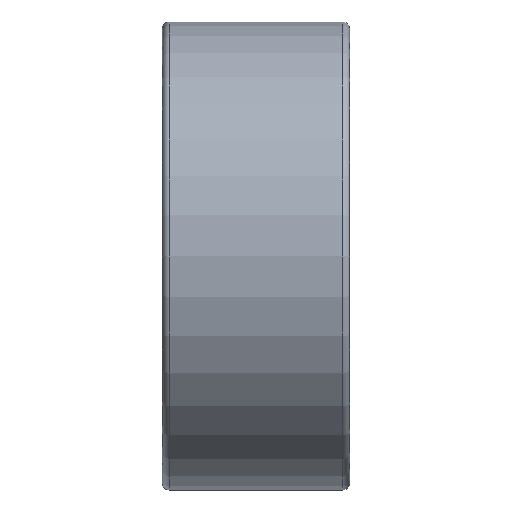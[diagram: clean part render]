
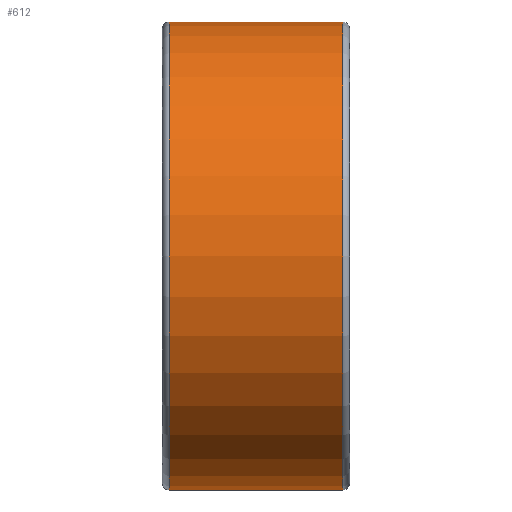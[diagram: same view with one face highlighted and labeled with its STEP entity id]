
A CAD part, front view. The second image highlights one B-rep face of the part: STEP entity #612.
In plain terms, the highlighted cylindrical face has radius 5 mm (diameter 10 mm), a full revolution.
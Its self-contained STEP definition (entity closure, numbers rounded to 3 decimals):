
#153 = TOROIDAL_SURFACE('',#154,4.85,0.15);
#154 = AXIS2_PLACEMENT_3D('',#155,#156,#157);
#155 = CARTESIAN_POINT('',(0.15,0.,0.));
#156 = DIRECTION('',(1.,0.,-0.));
#157 = DIRECTION('',(-0.,0.,-1.));
#539 = TOROIDAL_SURFACE('',#540,4.85,0.15);
#540 = AXIS2_PLACEMENT_3D('',#541,#542,#543);
#541 = CARTESIAN_POINT('',(3.85,0.,0.));
#542 = DIRECTION('',(1.,0.,-0.));
#543 = DIRECTION('',(-0.,0.,-1.));
#557 = EDGE_CURVE('',#558,#558,#560,.T.);
#558 = VERTEX_POINT('',#559);
#559 = CARTESIAN_POINT('',(3.85,0.,-5.));
#560 = SURFACE_CURVE('',#561,(#566,#573),.PCURVE_S1.);
#561 = CIRCLE('',#562,5.);
#562 = AXIS2_PLACEMENT_3D('',#563,#564,#565);
#563 = CARTESIAN_POINT('',(3.85,0.,0.));
#564 = DIRECTION('',(1.,0.,-0.));
#565 = DIRECTION('',(-0.,0.,-1.));
#566 = PCURVE('',#539,#567);
#567 = DEFINITIONAL_REPRESENTATION('',(#568),#572);
#568 = LINE('',#569,#570);
#569 = CARTESIAN_POINT('',(0.,6.283));
#570 = VECTOR('',#571,1.);
#571 = DIRECTION('',(1.,0.));
#572 = ( GEOMETRIC_REPRESENTATION_CONTEXT(2) 
PARAMETRIC_REPRESENTATION_CONTEXT() REPRESENTATION_CONTEXT('2D SPACE',''
  ) );
#573 = PCURVE('',#574,#579);
#574 = CYLINDRICAL_SURFACE('',#575,5.);
#575 = AXIS2_PLACEMENT_3D('',#576,#577,#578);
#576 = CARTESIAN_POINT('',(4.,0.,0.));
#577 = DIRECTION('',(-1.,-0.,0.));
#578 = DIRECTION('',(-0.,0.,-1.));
#579 = DEFINITIONAL_REPRESENTATION('',(#580),#584);
#580 = LINE('',#581,#582);
#581 = CARTESIAN_POINT('',(6.283,0.15));
#582 = VECTOR('',#583,1.);
#583 = DIRECTION('',(-1.,0.));
#584 = ( GEOMETRIC_REPRESENTATION_CONTEXT(2) 
PARAMETRIC_REPRESENTATION_CONTEXT() REPRESENTATION_CONTEXT('2D SPACE',''
  ) );
#612 = ADVANCED_FACE('',(#613),#574,.T.);
#613 = FACE_BOUND('',#614,.T.);
#614 = EDGE_LOOP('',(#615,#639,#659,#660));
#615 = ORIENTED_EDGE('',*,*,#616,.T.);
#616 = EDGE_CURVE('',#617,#617,#619,.T.);
#617 = VERTEX_POINT('',#618);
#618 = CARTESIAN_POINT('',(0.15,0.,-5.));
#619 = SURFACE_CURVE('',#620,(#625,#632),.PCURVE_S1.);
#620 = CIRCLE('',#621,5.);
#621 = AXIS2_PLACEMENT_3D('',#622,#623,#624);
#622 = CARTESIAN_POINT('',(0.15,0.,0.));
#623 = DIRECTION('',(1.,0.,-0.));
#624 = DIRECTION('',(-0.,0.,-1.));
#625 = PCURVE('',#574,#626);
#626 = DEFINITIONAL_REPRESENTATION('',(#627),#631);
#627 = LINE('',#628,#629);
#628 = CARTESIAN_POINT('',(6.283,3.85));
#629 = VECTOR('',#630,1.);
#630 = DIRECTION('',(-1.,0.));
#631 = ( GEOMETRIC_REPRESENTATION_CONTEXT(2) 
PARAMETRIC_REPRESENTATION_CONTEXT() REPRESENTATION_CONTEXT('2D SPACE',''
  ) );
#632 = PCURVE('',#153,#633);
#633 = DEFINITIONAL_REPRESENTATION('',(#634),#638);
#634 = LINE('',#635,#636);
#635 = CARTESIAN_POINT('',(0.,6.283));
#636 = VECTOR('',#637,1.);
#637 = DIRECTION('',(1.,0.));
#638 = ( GEOMETRIC_REPRESENTATION_CONTEXT(2) 
PARAMETRIC_REPRESENTATION_CONTEXT() REPRESENTATION_CONTEXT('2D SPACE',''
  ) );
#639 = ORIENTED_EDGE('',*,*,#640,.F.);
#640 = EDGE_CURVE('',#558,#617,#641,.T.);
#641 = SEAM_CURVE('',#642,(#645,#652),.PCURVE_S1.);
#642 = B_SPLINE_CURVE_WITH_KNOTS('',1,(#643,#644),.UNSPECIFIED.,.F.,.F.,
  (2,2),(0.15,3.85),.PIECEWISE_BEZIER_KNOTS.);
#643 = CARTESIAN_POINT('',(3.85,0.,-5.));
#644 = CARTESIAN_POINT('',(0.15,0.,-5.));
#645 = PCURVE('',#574,#646);
#646 = DEFINITIONAL_REPRESENTATION('',(#647),#651);
#647 = LINE('',#648,#649);
#648 = CARTESIAN_POINT('',(0.,0.));
#649 = VECTOR('',#650,1.);
#650 = DIRECTION('',(0.,1.));
#651 = ( GEOMETRIC_REPRESENTATION_CONTEXT(2) 
PARAMETRIC_REPRESENTATION_CONTEXT() REPRESENTATION_CONTEXT('2D SPACE',''
  ) );
#652 = PCURVE('',#574,#653);
#653 = DEFINITIONAL_REPRESENTATION('',(#654),#658);
#654 = LINE('',#655,#656);
#655 = CARTESIAN_POINT('',(6.283,0.));
#656 = VECTOR('',#657,1.);
#657 = DIRECTION('',(0.,1.));
#658 = ( GEOMETRIC_REPRESENTATION_CONTEXT(2) 
PARAMETRIC_REPRESENTATION_CONTEXT() REPRESENTATION_CONTEXT('2D SPACE',''
  ) );
#659 = ORIENTED_EDGE('',*,*,#557,.F.);
#660 = ORIENTED_EDGE('',*,*,#640,.T.);
